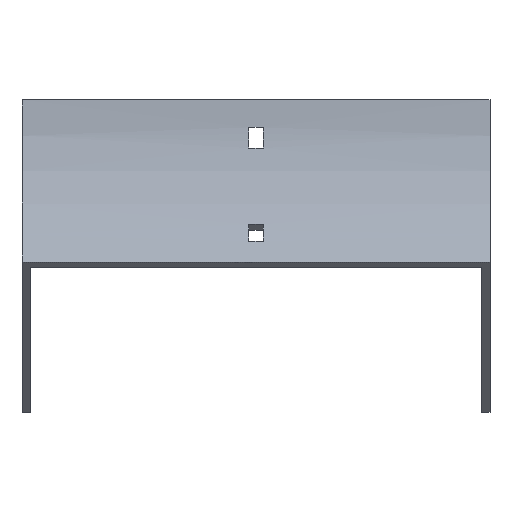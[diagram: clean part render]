
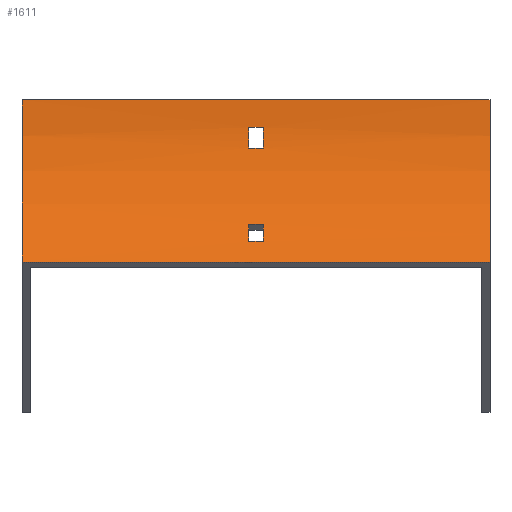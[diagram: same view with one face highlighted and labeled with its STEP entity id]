
A CAD part, front view. The second image highlights one B-rep face of the part: STEP entity #1611.
In plain terms, the highlighted cylindrical face has radius 100 mm (diameter 200 mm), a partial arc.
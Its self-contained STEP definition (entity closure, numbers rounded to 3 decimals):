
#3 = DIRECTION ( 'NONE',  ( -1., 0., 0. ) ) ;
#8 = ORIENTED_EDGE ( 'NONE', *, *, #775, .F. ) ;
#39 = CIRCLE ( 'NONE', #1079, 100. ) ;
#41 = EDGE_CURVE ( 'NONE', #1559, #202, #850, .T. ) ;
#68 = DIRECTION ( 'NONE',  ( 1., 0., 0. ) ) ;
#113 = VERTEX_POINT ( 'NONE', #842 ) ;
#123 = DIRECTION ( 'NONE',  ( -1., 0., 0. ) ) ;
#146 = AXIS2_PLACEMENT_3D ( 'NONE', #1482, #990, #1643 ) ;
#164 = CARTESIAN_POINT ( 'NONE',  ( 3.25, -2.23, -21. ) ) ;
#198 = CARTESIAN_POINT ( 'NONE',  ( 102., -16.017, -54.285 ) ) ;
#199 = VECTOR ( 'NONE', #68, 1000. ) ;
#202 = VERTEX_POINT ( 'NONE', #499 ) ;
#258 = CARTESIAN_POINT ( 'NONE',  ( -3.25, -0.723, -12. ) ) ;
#274 = VECTOR ( 'NONE', #343, 1000. ) ;
#281 = DIRECTION ( 'NONE',  ( 0., 0., -1. ) ) ;
#284 = EDGE_CURVE ( 'NONE', #1124, #356, #1343, .T. ) ;
#302 = EDGE_CURVE ( 'NONE', #722, #1627, #448, .T. ) ;
#303 = DIRECTION ( 'NONE',  ( 0., 0., 1. ) ) ;
#334 = EDGE_CURVE ( 'NONE', #1109, #717, #543, .T. ) ;
#343 = DIRECTION ( 'NONE',  ( -1., 0., 0. ) ) ;
#356 = VERTEX_POINT ( 'NONE', #921 ) ;
#364 = ORIENTED_EDGE ( 'NONE', *, *, #302, .F. ) ;
#365 = CARTESIAN_POINT ( 'NONE',  ( -102., -100., 0. ) ) ;
#370 = DIRECTION ( 'NONE',  ( -1., 0., 0. ) ) ;
#408 = AXIS2_PLACEMENT_3D ( 'NONE', #501, #370, #890 ) ;
#423 = CARTESIAN_POINT ( 'NONE',  ( 102., -29.289, -70.711 ) ) ;
#432 = EDGE_CURVE ( 'NONE', #1627, #113, #1625, .T. ) ;
#448 = CIRCLE ( 'NONE', #984, 100. ) ;
#459 = DIRECTION ( 'NONE',  ( -1., 0., 0. ) ) ;
#460 = EDGE_CURVE ( 'NONE', #717, #1559, #1103, .T. ) ;
#499 = CARTESIAN_POINT ( 'NONE',  ( 3.25, -0.723, -12. ) ) ;
#501 = CARTESIAN_POINT ( 'NONE',  ( 3.25, -100., 0. ) ) ;
#534 = CARTESIAN_POINT ( 'NONE',  ( -3.25, -2.23, -21. ) ) ;
#537 = VECTOR ( 'NONE', #1086, 1000. ) ;
#543 = LINE ( 'NONE', #1321, #537 ) ;
#548 = DIRECTION ( 'NONE',  ( -1., 0., 0. ) ) ;
#549 = AXIS2_PLACEMENT_3D ( 'NONE', #1035, #3, #635 ) ;
#551 = ORIENTED_EDGE ( 'NONE', *, *, #686, .F. ) ;
#558 = DIRECTION ( 'NONE',  ( 1., 0., 0. ) ) ;
#599 = CARTESIAN_POINT ( 'NONE',  ( -3.25, -21.315, -61.714 ) ) ;
#609 = ORIENTED_EDGE ( 'NONE', *, *, #460, .T. ) ;
#635 = DIRECTION ( 'NONE',  ( 0., 0., 1. ) ) ;
#653 = CARTESIAN_POINT ( 'NONE',  ( -102., 0., 0. ) ) ;
#686 = EDGE_CURVE ( 'NONE', #113, #1374, #39, .T. ) ;
#687 = CARTESIAN_POINT ( 'NONE',  ( 102., -29.289, -70.711 ) ) ;
#702 = CIRCLE ( 'NONE', #1173, 100. ) ;
#717 = VERTEX_POINT ( 'NONE', #534 ) ;
#722 = VERTEX_POINT ( 'NONE', #1442 ) ;
#743 = ORIENTED_EDGE ( 'NONE', *, *, #41, .T. ) ;
#775 = EDGE_CURVE ( 'NONE', #1374, #722, #1624, .T. ) ;
#817 = EDGE_LOOP ( 'NONE', ( #1396, #1533, #1532, #960 ) ) ;
#824 = ORIENTED_EDGE ( 'NONE', *, *, #334, .T. ) ;
#842 = CARTESIAN_POINT ( 'NONE',  ( -3.25, -16.017, -54.285 ) ) ;
#850 = LINE ( 'NONE', #1362, #1152 ) ;
#864 = CARTESIAN_POINT ( 'NONE',  ( 102., -100., 0. ) ) ;
#873 = EDGE_LOOP ( 'NONE', ( #551, #1637, #364, #8 ) ) ;
#890 = DIRECTION ( 'NONE',  ( 0., 0., -1. ) ) ;
#921 = CARTESIAN_POINT ( 'NONE',  ( -102., -29.289, -70.711 ) ) ;
#949 = EDGE_CURVE ( 'NONE', #1517, #356, #702, .T. ) ;
#960 = ORIENTED_EDGE ( 'NONE', *, *, #1389, .T. ) ;
#969 = CARTESIAN_POINT ( 'NONE',  ( 102., -21.315, -61.714 ) ) ;
#983 = CARTESIAN_POINT ( 'NONE',  ( 102., 0., 0. ) ) ;
#984 = AXIS2_PLACEMENT_3D ( 'NONE', #1477, #558, #303 ) ;
#990 = DIRECTION ( 'NONE',  ( 1., 0., 0. ) ) ;
#1004 = VERTEX_POINT ( 'NONE', #1292 ) ;
#1035 = CARTESIAN_POINT ( 'NONE',  ( 102., -100., 0. ) ) ;
#1064 = CIRCLE ( 'NONE', #408, 100. ) ;
#1079 = AXIS2_PLACEMENT_3D ( 'NONE', #1179, #548, #281 ) ;
#1086 = DIRECTION ( 'NONE',  ( -1., 0., 0. ) ) ;
#1103 = CIRCLE ( 'NONE', #146, 100. ) ;
#1109 = VERTEX_POINT ( 'NONE', #164 ) ;
#1124 = VERTEX_POINT ( 'NONE', #423 ) ;
#1146 = LINE ( 'NONE', #983, #274 ) ;
#1152 = VECTOR ( 'NONE', #1248, 1000. ) ;
#1173 = AXIS2_PLACEMENT_3D ( 'NONE', #365, #123, #1552 ) ;
#1179 = CARTESIAN_POINT ( 'NONE',  ( -3.25, -100., 0. ) ) ;
#1208 = VECTOR ( 'NONE', #459, 1000. ) ;
#1220 = AXIS2_PLACEMENT_3D ( 'NONE', #864, #1384, #1523 ) ;
#1248 = DIRECTION ( 'NONE',  ( 1., 0., 0. ) ) ;
#1260 = VECTOR ( 'NONE', #1575, 1000. ) ;
#1292 = CARTESIAN_POINT ( 'NONE',  ( 102., 0., 0. ) ) ;
#1321 = CARTESIAN_POINT ( 'NONE',  ( 102., -2.23, -21. ) ) ;
#1343 = LINE ( 'NONE', #687, #1260 ) ;
#1358 = CIRCLE ( 'NONE', #1220, 100. ) ;
#1362 = CARTESIAN_POINT ( 'NONE',  ( 102., -0.723, -12. ) ) ;
#1374 = VERTEX_POINT ( 'NONE', #599 ) ;
#1384 = DIRECTION ( 'NONE',  ( -1., 0., 0. ) ) ;
#1385 = EDGE_LOOP ( 'NONE', ( #824, #609, #743, #1443 ) ) ;
#1389 = EDGE_CURVE ( 'NONE', #1004, #1517, #1146, .T. ) ;
#1396 = ORIENTED_EDGE ( 'NONE', *, *, #949, .T. ) ;
#1406 = EDGE_CURVE ( 'NONE', #1004, #1124, #1358, .T. ) ;
#1426 = FACE_OUTER_BOUND ( 'NONE', #817, .T. ) ;
#1438 = CARTESIAN_POINT ( 'NONE',  ( 3.25, -16.017, -54.285 ) ) ;
#1442 = CARTESIAN_POINT ( 'NONE',  ( 3.25, -21.315, -61.714 ) ) ;
#1443 = ORIENTED_EDGE ( 'NONE', *, *, #1444, .T. ) ;
#1444 = EDGE_CURVE ( 'NONE', #202, #1109, #1064, .T. ) ;
#1477 = CARTESIAN_POINT ( 'NONE',  ( 3.25, -100., 0. ) ) ;
#1482 = CARTESIAN_POINT ( 'NONE',  ( -3.25, -100., 0. ) ) ;
#1517 = VERTEX_POINT ( 'NONE', #653 ) ;
#1523 = DIRECTION ( 'NONE',  ( 0., 0., 1. ) ) ;
#1532 = ORIENTED_EDGE ( 'NONE', *, *, #1406, .F. ) ;
#1533 = ORIENTED_EDGE ( 'NONE', *, *, #284, .F. ) ;
#1540 = FACE_BOUND ( 'NONE', #873, .T. ) ;
#1549 = CYLINDRICAL_SURFACE ( 'NONE', #549, 100. ) ;
#1552 = DIRECTION ( 'NONE',  ( 0., 0., 1. ) ) ;
#1559 = VERTEX_POINT ( 'NONE', #258 ) ;
#1575 = DIRECTION ( 'NONE',  ( -1., 0., 0. ) ) ;
#1611 = ADVANCED_FACE ( 'NONE', ( #1426, #1669, #1540 ), #1549, .F. ) ;
#1624 = LINE ( 'NONE', #969, #199 ) ;
#1625 = LINE ( 'NONE', #198, #1208 ) ;
#1627 = VERTEX_POINT ( 'NONE', #1438 ) ;
#1637 = ORIENTED_EDGE ( 'NONE', *, *, #432, .F. ) ;
#1643 = DIRECTION ( 'NONE',  ( 0., 0., 1. ) ) ;
#1669 = FACE_BOUND ( 'NONE', #1385, .T. ) ;
